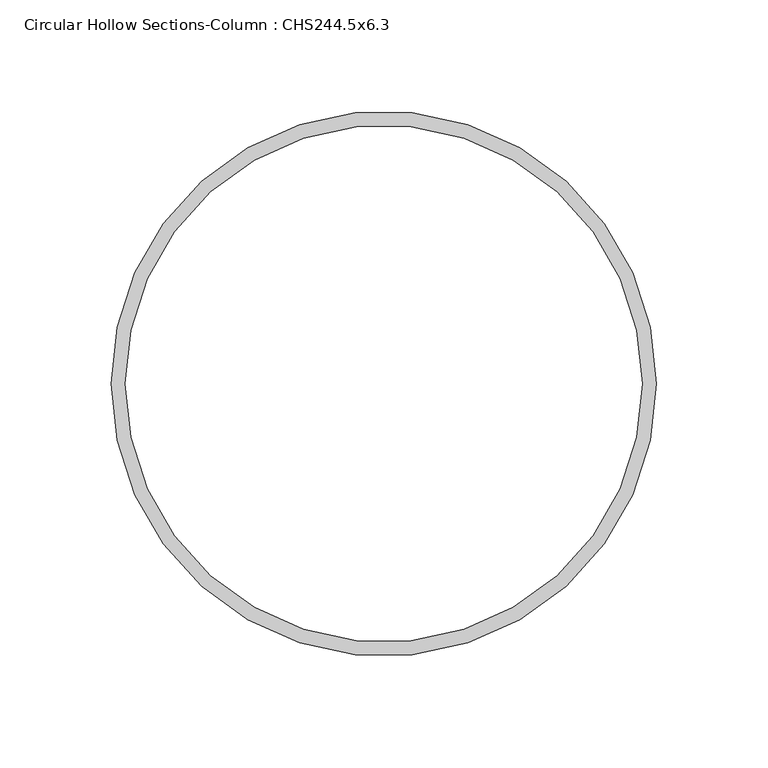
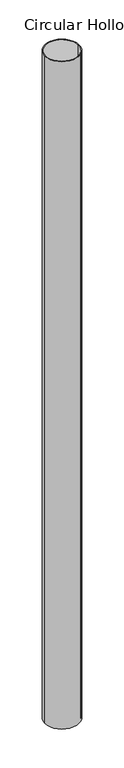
"""IFC4 building model written with IfcOpenShell, lengths in millimetres: column geometry, Circular Hollow Sections-Column : CHS244.5x6.3."""

from ifc_helpers import new_model, si_unit, point, frame, origin, origin_2d, place, context, project, spatial, circle_curve, trimmed, segment, composite_curve, outline, extrude, source, transform, mapped, element, save


def circular_hollow_sections_column_chs244_5x6_3_66409fe9(model_context):
    return source(origin(), model_context, "Body", "SweptSolid", [
        extrude(outline(composite_curve([segment(trimmed(circle_curve(origin_2d(), 122.25), [point((-122.25, 0.0))], [point((122.25, 0.0))], False, "CARTESIAN"), True, "CONTINUOUS"), segment(trimmed(circle_curve(origin_2d(), 122.25), [point((122.25, 0.0))], [point((-122.25, 0.0))], False, "CARTESIAN"), True, "CONTINUOUS")], self_intersect=False), holes=[composite_curve([segment(trimmed(circle_curve(origin_2d(), 115.95), [point((-115.95, 0.0))], [point((115.95, 0.0))], True, "CARTESIAN"), True, "CONTINUOUS"), segment(trimmed(circle_curve(origin_2d(), 115.95), [point((115.95, 0.0))], [point((-115.95, 0.0))], True, "CARTESIAN"), True, "CONTINUOUS")], self_intersect=False)]), frame((0.0, 0.0, -450.0), z_axis=(0.0, 0.0, 1.0), x_axis=(1.0, 0.0, 0.0)), (0.0, 0.0, 1.0), 5045.0),
    ])


if __name__ == "__main__":
    model = new_model("IFC4")
    model_context = context("Model", 3, world=origin())
    ifc_project = project(units=[si_unit("LENGTHUNIT", "METRE", prefix="MILLI")], contexts=[model_context])
    site = spatial("IfcSite", under=ifc_project)
    building = spatial("IfcBuilding", under=site)
    placement = place(None, origin())
    circular_hollow_sections_column_chs244_5x6_3_shape = circular_hollow_sections_column_chs244_5x6_3_66409fe9(model_context)
    element("IfcColumn", 1, ObjectType="Circular Hollow Sections-Column : CHS244.5x6.3", at=placement, inside=building, context=model_context, shape_type="MappedRepresentation", body=[
        mapped(circular_hollow_sections_column_chs244_5x6_3_shape, transform((0.0, 0.0, 0.0), x_axis=(1.0, 0.0, 0.0), y_axis=(0.0, 1.0, 0.0), z_axis=(0.0, 0.0, 1.0))),
    ])
    save(model, "model.ifc")
